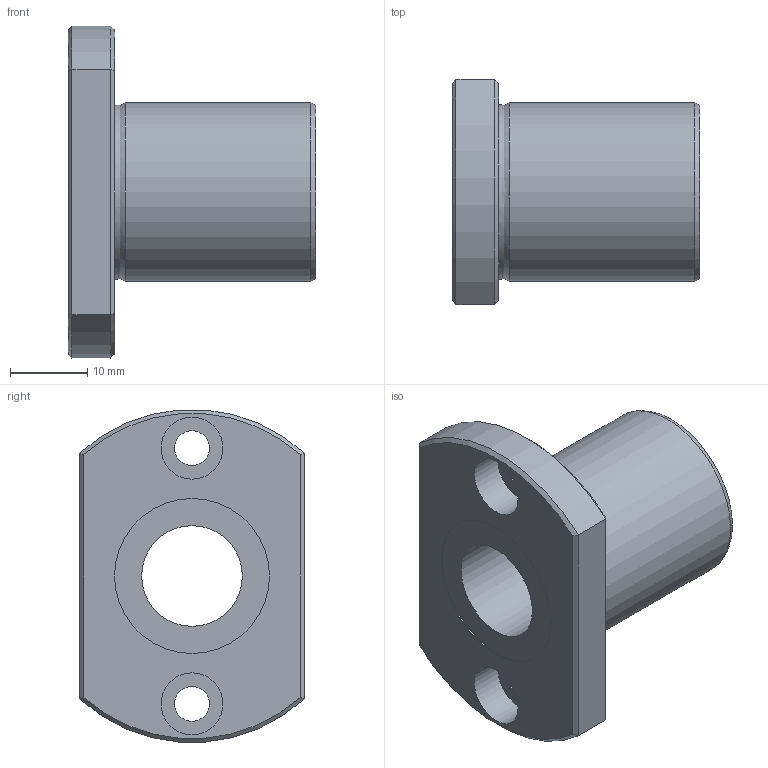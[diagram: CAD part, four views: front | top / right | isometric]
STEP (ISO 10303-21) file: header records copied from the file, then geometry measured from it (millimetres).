
FILE_DESCRIPTION((''),'2;1');
FILE_NAME('D:\製品 (図面)\カタログ用3D\リニアベアリング関連\STEP形式\LFT\LFT13.stp','2010-06-04T09:16:35',('Tsuchiya'),(''),'Autodesk Inventor 10','Autodesk Inventor 10','');
FILE_SCHEMA(('AUTOMOTIVE_DESIGN { 1 0 10303 214 1 1 1 1 }'));
Length unit declared in the file: millimetre
Products named in the file (1): LFT13
Bounding box: 32 x 29 x 42.85 mm (x, y, z)
Volume: 12838 mm3; surface area: 6101.2 mm2
Topology: 1 solids, 1 shells, 29 faces, 56 edges, 34 vertices
Faces by surface type: plane 13, cylinder 10, cone 4, torus 1, bspline 1
Full cylindrical faces by diameter (mm): 4.5 x2, 8 x2, 13 x1, 20 x2, 23 x1
Entity records: 787 total; most frequent: CARTESIAN_POINT 196, DIRECTION 122, ORIENTED_EDGE 92, AXIS2_PLACEMENT_3D 55, EDGE_LOOP 50, EDGE_CURVE 46, VERTEX_POINT 34, FACE_OUTER_BOUND 29
